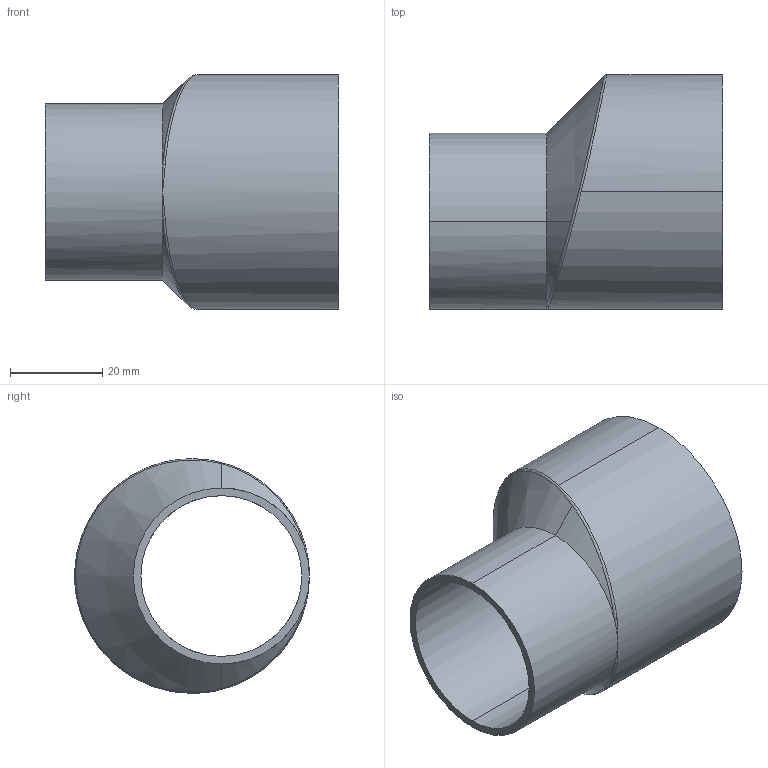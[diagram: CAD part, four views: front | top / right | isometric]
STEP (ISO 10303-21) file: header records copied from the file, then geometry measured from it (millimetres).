
FILE_DESCRIPTION (( 'STEP AP214' ), '1' );
FILE_NAME ('TE32SWW6L2.0x1.5-...STEP', '2016-06-01T07:19:13', ( 'eran' ), ( '' ), 'SwSTEP 2.0', 'SolidWorks 2016', '' );
FILE_SCHEMA (( 'AUTOMOTIVE_DESIGN' ));
Length unit declared in the file: millimetre
Products named in the file (1): TE32SWW6L2.0x1.5-..
Bounding box: 63.5 x 50.8 x 50.8 mm (x, y, z)
Volume: 27268 mm3; surface area: 17596 mm2
Topology: 1 solids, 1 shells, 22 faces, 53 edges, 29 vertices
Faces by surface type: cylinder 8, cone 5, bspline 5, torus 2, plane 2
Entity records: 1380 total; most frequent: CARTESIAN_POINT 888, ORIENTED_EDGE 98, DIRECTION 91, EDGE_CURVE 49, AXIS2_PLACEMENT_3D 40, VERTEX_POINT 29, EDGE_LOOP 24, CIRCLE 22
